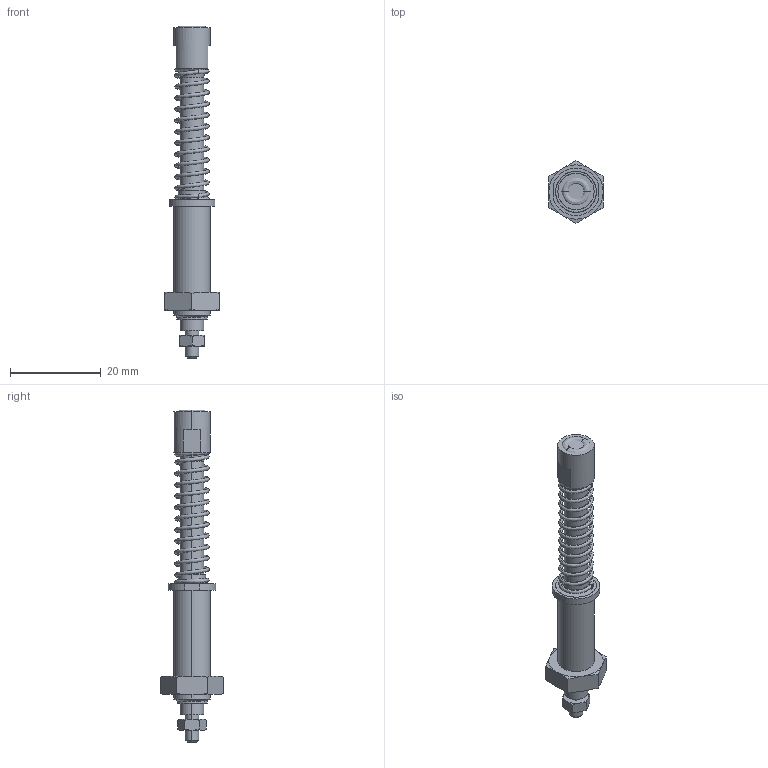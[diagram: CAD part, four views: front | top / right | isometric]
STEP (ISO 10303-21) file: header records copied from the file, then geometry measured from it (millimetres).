
FILE_DESCRIPTION (( 'STEP AP203' ), '1' );
FILE_NAME ('BC50-8_STEP-AP203.STEP', '2022-03-22T07:38:16', ( '' ), ( '' ), 'SwSTEP 2.0', 'SolidWorks 2017', '' );
FILE_SCHEMA (( 'CONFIG_CONTROL_DESIGN' ));
Length unit declared in the file: millimetre
Products named in the file (1): BC50-8_STEP-AP203
Bounding box: 12 x 13.86 x 73.35 mm (x, y, z)
Volume: 3046.5 mm3; surface area: 4049.9 mm2
Topology: 8 solids, 8 shells, 129 faces, 276 edges, 166 vertices
Faces by surface type: plane 43, cylinder 36, cone 30, bspline 10, torus 8, sphere 2
Entity records: 6503 total; most frequent: CARTESIAN_POINT 3706, DIRECTION 584, ORIENTED_EDGE 548, EDGE_CURVE 274, AXIS2_PLACEMENT_3D 254, VERTEX_POINT 166, EDGE_LOOP 144, CIRCLE 134
